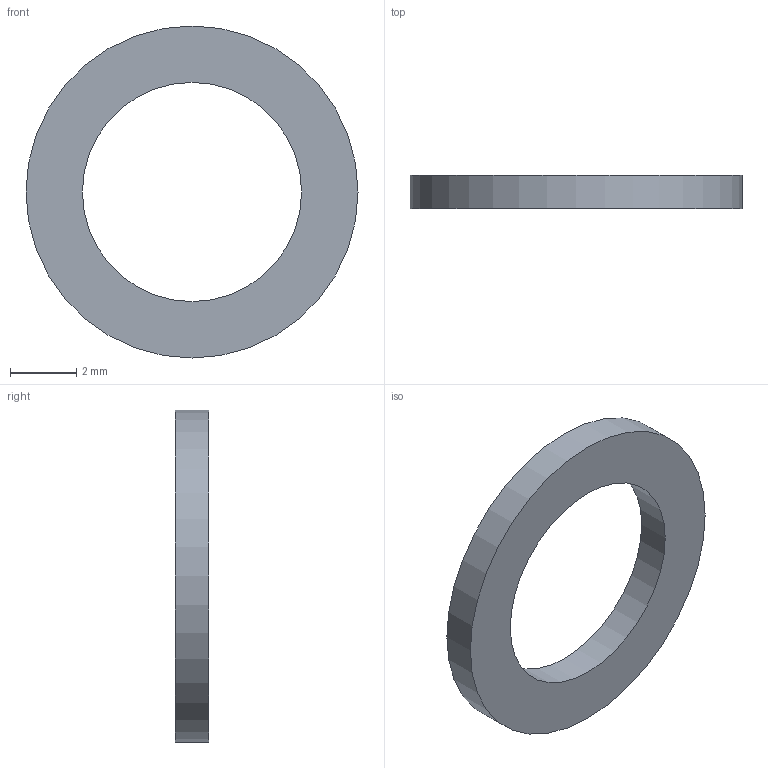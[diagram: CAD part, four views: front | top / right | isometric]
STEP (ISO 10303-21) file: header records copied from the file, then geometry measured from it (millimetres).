
FILE_DESCRIPTION(/* description */ (''),/* implementation_level */ '2;1');
FILE_NAME(/* name */ '',/* time_stamp */ '2025-02-26T16:18:32+09:00',/* author */ ('jhkim'),/* organization */ (''),/* preprocessor_version */ 'ST-DEVELOPER v20',/* originating_system */ 'Autodesk Inventor 2025',/* authorisation */ '');
FILE_SCHEMA (('AUTOMOTIVE_DESIGN { 1 0 10303 214 3 1 1 }'));
Length unit declared in the file: millimetre
Products named in the file (1): 실링
Bounding box: 10 x 1 x 10 mm (x, y, z)
Volume: 44.3 mm3; surface area: 140.8 mm2
Topology: 1 solids, 1 shells, 4 faces, 6 edges, 4 vertices
Faces by surface type: cylinder 2, plane 2
Full cylindrical faces by diameter (mm): 6.6 x1, 10 x1
Entity records: 141 total; most frequent: DIRECTION 20, CARTESIAN_POINT 15, ORIENTED_EDGE 12, AXIS2_PLACEMENT_3D 9, EDGE_LOOP 6, EDGE_CURVE 6, FACE_OUTER_BOUND 4, CIRCLE 4
